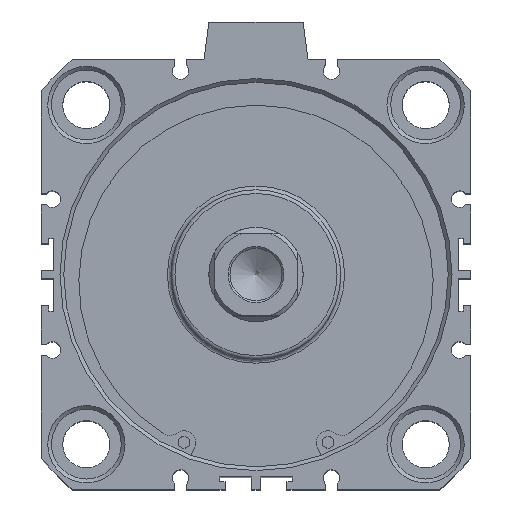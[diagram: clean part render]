
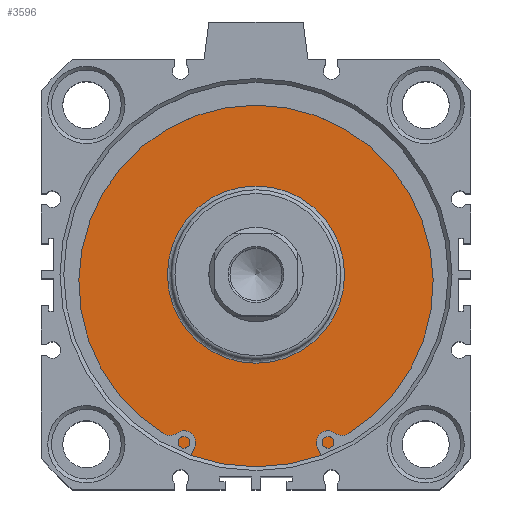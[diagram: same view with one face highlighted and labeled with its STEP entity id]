
A CAD part, top view. The second image highlights one B-rep face of the part: STEP entity #3596.
In plain terms, the highlighted planar face has unit normal (0, 0, 1).
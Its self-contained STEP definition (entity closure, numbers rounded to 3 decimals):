
#3545=CARTESIAN_POINT('',(0.957,25.414,77.6));
#3546=VERTEX_POINT('',#3545);
#3547=CARTESIAN_POINT('',(0.957,1.914,77.6));
#3548=DIRECTION('',(0.0,0.0,1.0));
#3549=DIRECTION('',(0.0,-1.0,0.0));
#3550=AXIS2_PLACEMENT_3D('',#3547,#3548,#3549);
#3551=CIRCLE('',#3550,23.5);
#3552=EDGE_CURVE('',#3546,#3546,#3551,.T.);
#3577=CARTESIAN_POINT('',(0.957,38.664,77.6));
#3578=DIRECTION('',(0.0,0.0,1.0));
#3579=DIRECTION('',(1.0,0.0,0.0));
#3580=AXIS2_PLACEMENT_3D('',#3577,#3578,#3579);
#3581=PLANE('',#3580);
#3582=CARTESIAN_POINT('',(0.957,52.914,77.6));
#3583=VERTEX_POINT('',#3582);
#3584=CARTESIAN_POINT('',(0.957,1.914,77.6));
#3585=DIRECTION('',(0.0,0.0,-1.0));
#3586=DIRECTION('',(0.0,1.0,0.0));
#3587=AXIS2_PLACEMENT_3D('',#3584,#3585,#3586);
#3588=CIRCLE('',#3587,51.);
#3589=EDGE_CURVE('',#3583,#3583,#3588,.T.);
#3590=ORIENTED_EDGE('',*,*,#3589,.F.);
#3591=EDGE_LOOP('',(#3590));
#3592=FACE_OUTER_BOUND('',#3591,.T.);
#3593=ORIENTED_EDGE('',*,*,#3552,.F.);
#3594=EDGE_LOOP('',(#3593));
#3595=FACE_BOUND('',#3594,.T.);
#3596=ADVANCED_FACE('',(#3592,#3595),#3581,.T.);
